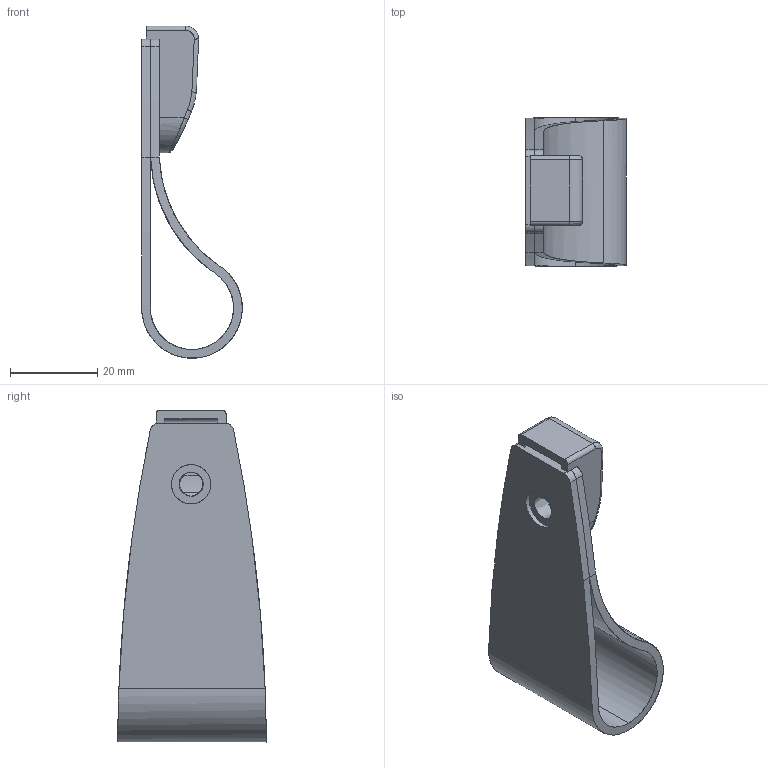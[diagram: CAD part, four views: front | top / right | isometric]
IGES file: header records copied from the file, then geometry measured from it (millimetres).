
Start section: C
Global section: file name: 8277.igs; native system: By Siemens PLM Incorporated; preprocessor: XPlus GENERIC/IGES 16.0.42; author: Author; organization: Title; date: 20220504.151723; units: millimetre
Bounding box: 22.99 x 33.99 x 75.96 mm (x, y, z)
Surface area: 12401.5 mm2 (no closed solid volume)
Topology: 0 solids, 0 shells, 63 faces, 340 edges, 340 vertices
Faces by surface type: bspline 63
